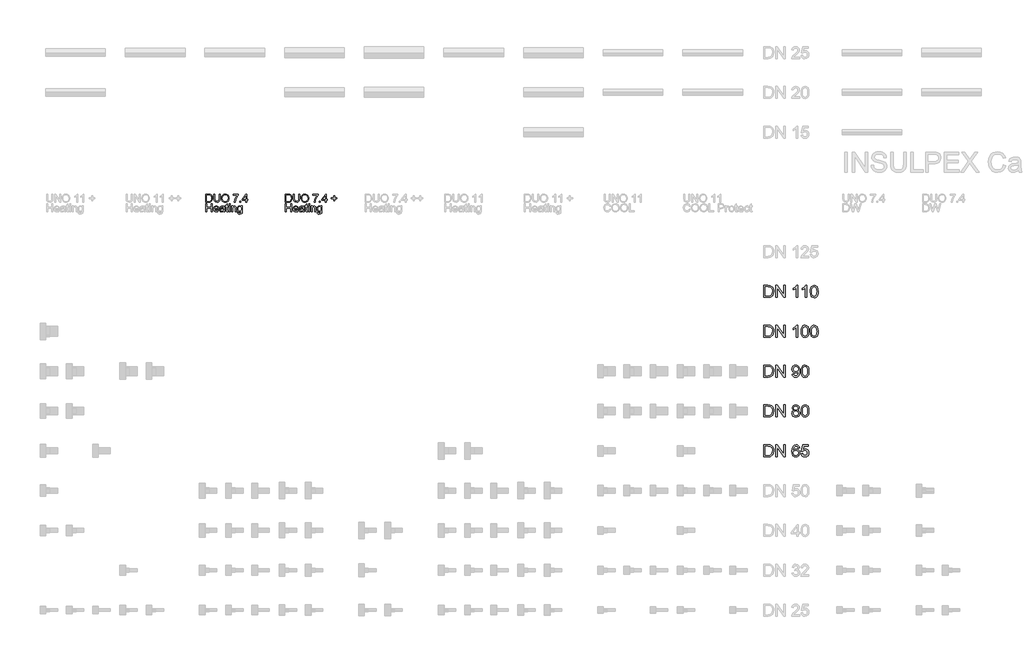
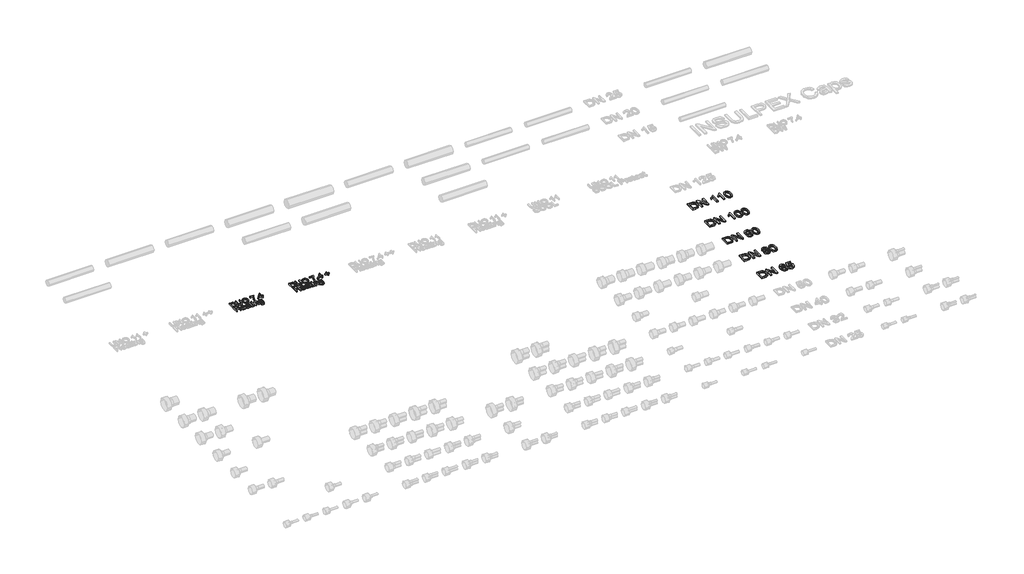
# One storey, part 16 of 44: 7 proxies.
"""IFC4 building model written with IfcOpenShell, lengths in millimetres."""

import ifcopenshell
import ifcopenshell.guid

model = None  # the IFC model being written
_history = None  # IfcOwnerHistory: only IFC2X3 demands one
_inside = {}  # id of a spatial element -> (the spatial element, [elements in it])
_under = {}  # id of a project, library or spatial element -> (it, [spatial elements below it])
_declared = {}  # id of a project -> (the project, [libraries it declares])
_typed = {}  # id of a type object -> (the type object, [elements of that type])
_made_of = {}  # id of a material, layer set ... -> (it, [elements and type objects made of it])


def new_model(schema):
    """Start an empty IFC model of exactly this schema.

    Asked for "IFC4X3", IfcOpenShell would pick the latest addendum, in which some entities
    have other attributes; the version numbers below select the first issue.
    IFC2X3 requires an IfcOwnerHistory on every rooted entity: one is made here for all.
    """
    global model, _history
    if schema == "IFC4X3":
        model = ifcopenshell.file(schema_version=(4, 3, 0, 0))
    else:
        model = ifcopenshell.file(schema=schema)
    _inside.clear()
    _under.clear()
    _declared.clear()
    _typed.clear()
    _made_of.clear()
    _history = None
    if model.schema == "IFC2X3":
        org = make("IfcOrganization", Name="unknown")
        user = make(
            "IfcPersonAndOrganization",
            ThePerson=make("IfcPerson", FamilyName="unknown"),
            TheOrganization=org,
        )
        app = make(
            "IfcApplication",
            ApplicationDeveloper=org,
            Version="unknown",
            ApplicationFullName="unknown",
            ApplicationIdentifier="unknown",
        )
        _history = make(
            "IfcOwnerHistory",
            OwningUser=user,
            OwningApplication=app,
            ChangeAction="ADDED",
            CreationDate=0,
        )
    return model


def make(cls, **values):
    """One entity of the class cls with the attributes given. An attribute that is None is left unset."""
    return model.create_entity(
        cls, **{name: value for name, value in values.items() if value is not None}
    )


def rooted(cls, **values):
    """An entity with a GlobalId (a new one), such as an element, a storey or a relation."""
    return make(cls, GlobalId=ifcopenshell.guid.new(), OwnerHistory=_history, **values)


def si_unit(unit_type, name, prefix=None):
    """IfcSIUnit, for example si_unit("LENGTHUNIT", "METRE", prefix="MILLI")."""
    return make("IfcSIUnit", UnitType=unit_type, Prefix=prefix, Name=name)


def assignment(units):
    """IfcUnitAssignment: the units of a project."""
    return None if units is None else make("IfcUnitAssignment", Units=units)


def point(xyz):
    """IfcCartesianPoint."""
    return None if xyz is None else make("IfcCartesianPoint", Coordinates=xyz)


def direction(xyz):
    """IfcDirection."""
    return None if xyz is None else make("IfcDirection", DirectionRatios=xyz)


def frame(location, z_axis=None, x_axis=None):
    """IfcAxis2Placement3D, a coordinate frame: its origin and axes. An axis left out is left unset."""
    return make(
        "IfcAxis2Placement3D",
        Location=point(location),
        Axis=direction(z_axis),
        RefDirection=direction(x_axis),
    )


def origin():
    """The frame at (0, 0, 0) with its axes left unset."""
    return frame((0.0, 0.0, 0.0))


def origin_with_axes():
    """The frame at (0, 0, 0) with the z axis (0, 0, 1) and the x axis (1, 0, 0) written out."""
    return frame((0.0, 0.0, 0.0), z_axis=(0.0, 0.0, 1.0), x_axis=(1.0, 0.0, 0.0))


def place(relative_to, where):
    """IfcLocalPlacement: puts the frame where relative to a parent placement (None: the world)."""
    return make(
        "IfcLocalPlacement", PlacementRelTo=relative_to, RelativePlacement=where
    )


def context(
    kind, dimensions, precision=None, world=None, true_north=None, identifier=None
):
    """IfcGeometricRepresentationContext, for example the 3D "Model" context."""
    return make(
        "IfcGeometricRepresentationContext",
        ContextIdentifier=identifier,
        ContextType=kind,
        CoordinateSpaceDimension=dimensions,
        Precision=precision,
        WorldCoordinateSystem=world,
        TrueNorth=true_north,
    )


def project(units=None, contexts=None):
    """IfcProject with its units and contexts."""
    return rooted(
        "IfcProject",
        Name="project",
        RepresentationContexts=contexts,
        UnitsInContext=assignment(units),
    )


def spatial(cls, under=None, at=None, **own):
    """A site, building, storey or space (cls), placed at a placement, below another one or the project."""
    s = rooted(cls, ObjectPlacement=at, **own)
    if under is not None:
        _under.setdefault(under.id(), (under, []))[1].append(s)
    return s


def polyline(points):
    """IfcPolyline through the points."""
    return make("IfcPolyline", Points=[point(p) for p in points])


def outline(outer, holes=None, kind="AREA"):
    """IfcArbitraryClosedProfileDef: a profile drawn as a closed curve; with holes, ...WithVoids."""
    if holes is None:
        return make("IfcArbitraryClosedProfileDef", ProfileType=kind, OuterCurve=outer)
    return make(
        "IfcArbitraryProfileDefWithVoids",
        ProfileType=kind,
        OuterCurve=outer,
        InnerCurves=holes,
    )


def extrude(swept, where, along, depth):
    """IfcExtrudedAreaSolid: the profile swept, set in the frame where, extruded along a direction by depth."""
    return make(
        "IfcExtrudedAreaSolid",
        SweptArea=swept,
        Position=where,
        ExtrudedDirection=direction(along),
        Depth=depth,
    )


def shape(context_of_items, identifier, shape_type, items):
    """IfcShapeRepresentation: the items that make up one representation, for example the "Body"."""
    return make(
        "IfcShapeRepresentation",
        ContextOfItems=context_of_items,
        RepresentationIdentifier=identifier,
        RepresentationType=shape_type,
        Items=items,
    )


def made_of(thing, what):
    """Note that an element or type object is made of a material, layer set ...; save() writes the relation."""
    if what is not None:
        _made_of.setdefault(what.id(), (what, []))[1].append(thing)
    return thing


def element(
    cls,
    number,
    at=None,
    inside=None,
    cuts=None,
    type_object=None,
    material=None,
    context=None,
    identifier="Body",
    shape_type=None,
    held_by="IfcProductDefinitionShape",
    body=None,
    shapes=None,
    **own,
):
    """One element of the class cls, such as IfcWall. Its Tag is "e" and its number.

    at: its placement. inside: the storey or other place that contains it. cuts: it is an
    opening in that element (IfcRelVoidsElement). A single representation is given by context,
    identifier, shape_type and body (its items); several are given by shapes. held_by: the class
    of the entity that holds the representations. save() writes the other relations.
    """
    e = rooted(cls, Tag="e%d" % number, ObjectPlacement=at, **own)
    if body is not None:
        shapes = [shape(context, identifier, shape_type, body)]
    if shapes is not None:
        e.Representation = make(held_by, Representations=shapes)
    if inside is not None:
        _inside.setdefault(inside.id(), (inside, []))[1].append(e)
    if cuts is not None:
        rooted(
            "IfcRelVoidsElement", RelatingBuildingElement=cuts, RelatedOpeningElement=e
        )
    if type_object is not None:
        _typed.setdefault(type_object.id(), (type_object, []))[1].append(e)
    return made_of(e, material)


def aggregate(whole, parts):
    """IfcRelAggregates: a whole, such as a stair, and the parts it consists of."""
    return rooted("IfcRelAggregates", RelatingObject=whole, RelatedObjects=parts)


def save(model, path):
    """Write the relations noted so far, then the file.

    IfcRelAggregates (storeys below a building ...), IfcRelContainedInSpatialStructure (elements
    in a storey), IfcRelDefinesByType, IfcRelAssociatesMaterial and IfcRelDeclares: one each for
    every whole, place, type object, material and project.
    """
    for whole, parts in _under.values():
        aggregate(whole, parts)
    for where, things in _inside.values():
        rooted(
            "IfcRelContainedInSpatialStructure",
            RelatedElements=things,
            RelatingStructure=where,
        )
    for kind, things in _typed.values():
        rooted("IfcRelDefinesByType", RelatedObjects=things, RelatingType=kind)
    for what, things in _made_of.values():
        rooted("IfcRelAssociatesMaterial", RelatedObjects=things, RelatingMaterial=what)
    for by, libraries in _declared.values():
        rooted("IfcRelDeclares", RelatingContext=by, RelatedDefinitions=libraries)
    model.write(path)


model = new_model("IFC4")

# Units and contexts
model_context = context("Model", 3, world=origin())
ifc_project = project(units=[si_unit("LENGTHUNIT", "METRE", prefix="MILLI")], contexts=[model_context])

# Site, building, storey
site = spatial("IfcSite", under=ifc_project)
building = spatial("IfcBuilding", under=site)
storey = spatial("IfcBuildingStorey", under=building, Name="REHAU Starting view", Elevation=0.0)

# Proxies
placement = place(None, origin())
element("IfcBuildingElementProxy", 1, Name="100", ObjectType="100", at=placement, inside=storey, context=model_context, shape_type="SweptSolid", body=[
    extrude(outline(polyline([(8010.9874089, 13121.9748178), (8010.9874089, 13222.431128), (8045.6418929, 13222.431128), (8063.5700088, 13220.9841255), (8078.3343395, 13213.7981638), (8090.2291907, 13196.6303374), (8094.1777908, 13172.7425332), (8091.5045149, 13152.4722352), (8084.6373844, 13137.8427946), (8075.4648599, 13128.7315838), (8063.4596442, 13123.6916005), (8047.3096246, 13121.9748178), (8010.9874089, 13121.9748178)]), holes=[polyline([(8023.5444477, 13134.5318566), (8045.7645202, 13134.5318566), (8061.9268025, 13136.3467411), (8071.2464797, 13141.4725636), (8078.8861625, 13153.9437632), (8081.620752, 13172.9387369), (8080.2810484, 13186.6239471), (8076.2619376, 13196.7284393), (8063.2266522, 13207.863001), (8045.4211637, 13209.8740892), (8023.5444477, 13209.8740892), (8023.5444477, 13134.5318566)])]), origin_with_axes(), (0.0, 0.0, 1.0), 20.0),
    extrude(outline(polyline([(8177.3681726, 13222.431128), (8189.9252114, 13222.431128), (8189.9252114, 13164.477451), (8186.5161716, 13140.4547567), (8174.2289129, 13125.9847316), (8163.9650053, 13121.8000739), (8150.9297199, 13120.405188), (8127.9861461, 13125.2612303), (8120.3464634, 13131.2055902), (8115.2574291, 13139.3265853), (8111.4437191, 13164.477451), (8111.4437191, 13222.431128), (8124.0007578, 13222.431128), (8124.0007578, 13164.9189094), (8126.4778299, 13145.7767829), (8134.9881668, 13136.2976902), (8149.7524975, 13132.9622268), (8162.5241341, 13134.6115644), (8171.0160768, 13139.5595772), (8175.7801487, 13149.1980855), (8177.3681726, 13164.9189094), (8177.3681726, 13222.431128)])), origin_with_axes(), (0.0, 0.0, 1.0), 20.0),
    extrude(outline(polyline([(8207.1911397, 13170.8785977), (8210.5388658, 13193.0925389), (8220.5820443, 13209.8986147), (8235.9165921, 13220.4752221), (8255.1384264, 13224.0007578), (8268.3147332, 13222.3452889), (8280.1298766, 13217.3788819), (8289.9400631, 13209.4510249), (8297.1014993, 13198.9112058), (8301.479295, 13186.2683279), (8302.9385603, 13172.0312947), (8301.402653, 13157.6041891), (8296.794931, 13144.7835015), (8289.369846, 13134.2252883), (8279.3818499, 13126.5856055), (8267.667874, 13121.9502924), (8255.06485, 13120.405188), (8241.6862081, 13122.1127736), (8229.8036197, 13127.2355304), (8220.0179586, 13135.3105402), (8212.9300988, 13145.8748848), (8207.1911397, 13170.8785977)]), holes=[polyline([(8219.7481785, 13170.7559704), (8222.2589731, 13155.0412778), (8229.7913569, 13143.0667189), (8241.1129253, 13135.4883498), (8254.9912736, 13132.9622268), (8269.071957, 13135.5128753), (8280.4119195, 13143.1648208), (8287.889121, 13155.5072617), (8290.3815215, 13172.1293965), (8286.1140904, 13192.8534156), (8273.6428907, 13206.575414), (8255.2120028, 13211.4437191), (8241.7046022, 13209.0984714), (8230.2205526, 13202.0627282), (8222.366272, 13189.5455433), (8219.7481785, 13170.7559704)])]), origin_with_axes(), (0.0, 0.0, 1.0), 20.0),
    extrude(outline(polyline([(8354.7363452, 13208.3044594), (8354.7363452, 13220.8614981), (8420.6607988, 13220.8614981), (8420.6607988, 13210.7079551), (8401.9601307, 13183.6931539), (8387.6495211, 13149.2716619), (8382.9896824, 13121.9748178), (8370.4326437, 13121.9748178), (8375.4235761, 13150.3017315), (8389.121049, 13182.3197278), (8408.10376, 13208.3044594), (8354.7363452, 13208.3044594)])), origin_with_axes(), (0.0, 0.0, 1.0), 20.0),
    extrude(outline(polyline([(8437.9267271, 13121.9748178), (8437.9267271, 13134.5318566), (8450.4837658, 13134.5318566), (8450.4837658, 13121.9748178), (8437.9267271, 13121.9748178)])), origin_with_axes(), (0.0, 0.0, 1.0), 20.0),
    extrude(outline(polyline([(8511.6993298, 13121.9748178), (8511.6993298, 13145.5192655), (8466.1800643, 13145.5192655), (8466.1800643, 13158.0763043), (8514.8385895, 13220.8614981), (8524.2563686, 13220.8614981), (8524.2563686, 13158.0763043), (8536.8134074, 13158.0763043), (8536.8134074, 13145.5192655), (8524.2563686, 13145.5192655), (8524.2563686, 13121.9748178), (8511.6993298, 13121.9748178)]), holes=[polyline([(8511.6993298, 13158.0763043), (8511.6993298, 13196.8755921), (8481.6311081, 13158.0763043), (8511.6993298, 13158.0763043)])]), origin_with_axes(), (0.0, 0.0, 1.0), 20.0),
    extrude(outline(polyline([(8010.9874089, 13000.0), (8010.9874089, 13100.4563101), (8023.5444477, 13100.4563101), (8023.5444477, 13059.6459342), (8076.9118625, 13059.6459342), (8076.9118625, 13100.4563101), (8089.4689012, 13100.4563101), (8089.4689012, 13000.0), (8076.9118625, 13000.0), (8076.9118625, 13047.0888954), (8023.5444477, 13047.0888954), (8023.5444477, 13000.0), (8010.9874089, 13000.0)])), origin_with_axes(), (0.0, 0.0, 1.0), 20.0),
    extrude(outline(polyline([(8161.5247213, 13021.9748178), (8173.8365055, 13020.405188), (8169.4004617, 13011.1284304), (8162.321799, 13004.1938547), (8152.7599328, 12999.8712413), (8140.8742787, 12998.4303702), (8126.1406048, 13000.9166393), (8114.803708, 13008.3754468), (8107.5748268, 13020.3224146), (8105.1651997, 13036.2731647), (8107.5993522, 13052.7604095), (8114.9018098, 13065.0905877), (8126.0854225, 13072.7793214), (8140.1630402, 13075.3422326), (8153.8022651, 13072.7854527), (8164.7007692, 13065.1151131), (8171.846877, 13052.8094604), (8174.2289129, 13036.3467411), (8174.1553365, 13032.9622268), (8117.7222385, 13032.9622268), (8119.8958079, 13023.5628418), (8124.9449883, 13016.6527916), (8132.2321175, 13012.4037546), (8141.1195333, 13010.9874089), (8153.4313175, 13013.6116338), (8161.5247213, 13021.9748178)]), holes=[polyline([(8117.7222385, 13045.5192655), (8161.6718741, 13045.5192655), (8156.6441535, 13056.8990819), (8149.3233018, 13061.3136659), (8140.1139892, 13062.7851938), (8124.6506827, 13058.088567), (8119.7854433, 13052.5979283), (8117.7222385, 13045.5192655)])]), origin_with_axes(), (0.0, 0.0, 1.0), 20.0),
    extrude(outline(polyline([(8233.8748471, 13009.4177791), (8221.697953, 13000.9074423), (8208.2457347, 12998.4303702), (8197.7519008, 12999.9202922), (8190.0110505, 13004.3900585), (8185.2377816, 13011.1774813), (8183.646692, 13019.6203731), (8186.0501877, 13029.5531869), (8192.3654953, 13036.7636741), (8201.157875, 13040.8839524), (8212.0226566, 13042.7724133), (8233.8012707, 13047.0888954), (8233.8748471, 13049.8847985), (8230.4167563, 13059.1554248), (8216.5353424, 13062.7851938), (8203.8311508, 13060.3694354), (8197.7733606, 13051.7977849), (8185.2163218, 13053.3674148), (8190.6487126, 13065.6301479), (8201.5870706, 13072.8161096), (8218.1540231, 13075.3422326), (8233.372075, 13073.1104152), (8241.968251, 13067.5063461), (8245.8187492, 13058.9837466), (8246.4318858, 13047.9963376), (8246.4318858, 13032.3736156), (8247.069548, 13010.5582133), (8249.5711455, 13000.0), (8237.0141068, 13000.0), (8233.8748471, 13009.4177791)]), holes=[polyline([(8233.8748471, 13034.5318566), (8213.6168119, 13030.6813584), (8202.8133439, 13028.6457447), (8197.9205134, 13025.3348067), (8196.2037308, 13020.5032899), (8199.9438644, 13013.7097357), (8210.9190106, 13010.9874089), (8223.6232021, 13013.9917785), (8231.8147079, 13021.2635793), (8233.8012707, 13030.975664), (8233.8748471, 13034.5318566)])]), origin_with_axes(), (0.0, 0.0, 1.0), 20.0),
    extrude(outline(polyline([(8290.3815215, 13010.4723741), (8291.9511514, 12999.632118), (8282.5578978, 12998.4303702), (8272.0364727, 13000.5150348), (8266.7880229, 13005.9842138), (8265.267444, 13020.2335097), (8265.267444, 13061.215564), (8255.8496649, 13061.215564), (8255.8496649, 13073.7726028), (8265.267444, 13073.7726028), (8265.267444, 13091.7007187), (8277.8244828, 13099.082884), (8277.8244828, 13073.7726028), (8290.3815215, 13073.7726028), (8290.3815215, 13061.215564), (8277.8244828, 13061.215564), (8277.8244828, 13020.6013917), (8278.4866703, 13014.1266686), (8280.6326487, 13011.8335375), (8284.9123425, 13010.9874089), (8290.3815215, 13010.4723741)])), origin_with_axes(), (0.0, 0.0, 1.0), 20.0),
    extrude(outline(polyline([(8302.9385603, 13087.8992714), (8302.9385603, 13100.4563101), (8315.4955991, 13100.4563101), (8315.4955991, 13087.8992714), (8302.9385603, 13087.8992714)])), origin_with_axes(), (0.0, 0.0, 1.0), 20.0),
    extrude(outline(polyline([(8302.9385603, 13000.0), (8302.9385603, 13073.7726028), (8315.4955991, 13073.7726028), (8315.4955991, 13000.0), (8302.9385603, 13000.0)])), origin_with_axes(), (0.0, 0.0, 1.0), 20.0),
    extrude(outline(polyline([(8334.3311572, 13000.0), (8334.3311572, 13073.7726028), (8346.888196, 13073.7726028), (8346.888196, 13063.4719069), (8356.4899161, 13072.3746512), (8369.5987778, 13075.3422326), (8381.4568408, 13072.9509996), (8389.5502447, 13066.6724803), (8393.3149038, 13057.4386422), (8393.9770914, 13045.2985363), (8393.9770914, 13000.0), (8381.4200526, 13000.0), (8381.4200526, 13043.6062792), (8379.9730501, 13054.7163154), (8374.8594904, 13060.5901646), (8366.2387889, 13062.7851938), (8352.6148924, 13057.8555751), (8348.3198701, 13050.712533), (8346.888196, 13039.1426443), (8346.888196, 13000.0), (8334.3311572, 13000.0)])), origin_with_axes(), (0.0, 0.0, 1.0), 20.0),
    extrude(outline(polyline([(8408.10376, 12993.7214806), (8420.6607988, 12992.1518508), (8424.7320262, 12985.5299749), (8436.9211829, 12982.7340717), (8449.7725273, 12985.8978569), (8455.9038939, 12994.7760757), (8456.7622852, 13009.4177791), (8447.9208546, 13002.3544448), (8437.1419121, 13000.0), (8424.1955316, 13002.7407209), (8414.5416949, 13010.9628835), (8408.5360213, 13023.0171502), (8406.5341301, 13037.2541834), (8410.127111, 13056.7151409), (8420.5259087, 13070.4861903), (8436.5287755, 13075.3422326), (8447.7307822, 13072.5953804), (8456.7622852, 13064.3548237), (8456.7622852, 13073.7726028), (8469.319324, 13073.7726028), (8469.319324, 13010.0799667), (8465.8857587, 12985.6893904), (8455.0087144, 12974.3463622), (8436.6759283, 12970.1770329), (8424.9926092, 12971.6454952), (8415.7924937, 12976.0508821), (8409.8910533, 12983.4054563), (8408.10376, 12993.7214806)]), holes=[polyline([(8419.0911689, 13038.1125747), (8420.4308725, 13026.5948026), (8424.4499833, 13018.6761426), (8430.4924451, 13014.0868147), (8437.9022016, 13012.5570388), (8445.2567758, 13014.0776177), (8451.3298944, 13018.6393544), (8455.4041875, 13026.4568468), (8456.7622852, 13037.7446927), (8455.3643336, 13048.6309341), (8451.1704789, 13056.4698863), (8445.0084555, 13061.2063669), (8437.7059979, 13062.7851938), (8430.5353646, 13061.2308924), (8424.5235597, 13056.5679881), (8420.4492666, 13048.8455319), (8419.0911689, 13038.1125747)])]), origin_with_axes(), (0.0, 0.0, 1.0), 20.0),
])
element("IfcBuildingElementProxy", 2, Name="100", ObjectType="100", at=placement, inside=storey, context=model_context, shape_type="SweptSolid", body=[
    extrude(outline(polyline([(9010.9874089, 13121.9748178), (9010.9874089, 13222.431128), (9045.6418929, 13222.431128), (9063.5700088, 13220.9841255), (9078.3343395, 13213.7981638), (9090.2291907, 13196.6303374), (9094.1777908, 13172.7425332), (9091.5045149, 13152.4722352), (9084.6373844, 13137.8427946), (9075.4648599, 13128.7315838), (9063.4596442, 13123.6916005), (9047.3096246, 13121.9748178), (9010.9874089, 13121.9748178)]), holes=[polyline([(9023.5444477, 13134.5318566), (9045.7645202, 13134.5318566), (9061.9268025, 13136.3467411), (9071.2464797, 13141.4725636), (9078.8861625, 13153.9437632), (9081.620752, 13172.9387369), (9080.2810484, 13186.6239471), (9076.2619376, 13196.7284393), (9063.2266522, 13207.863001), (9045.4211637, 13209.8740892), (9023.5444477, 13209.8740892), (9023.5444477, 13134.5318566)])]), origin_with_axes(), (0.0, 0.0, 1.0), 20.0),
    extrude(outline(polyline([(9177.3681726, 13222.431128), (9189.9252114, 13222.431128), (9189.9252114, 13164.477451), (9186.5161716, 13140.4547567), (9174.2289129, 13125.9847316), (9163.9650053, 13121.8000739), (9150.9297199, 13120.405188), (9127.9861461, 13125.2612303), (9120.3464634, 13131.2055902), (9115.2574291, 13139.3265853), (9111.4437191, 13164.477451), (9111.4437191, 13222.431128), (9124.0007578, 13222.431128), (9124.0007578, 13164.9189094), (9126.4778299, 13145.7767829), (9134.9881668, 13136.2976902), (9149.7524975, 13132.9622268), (9162.5241341, 13134.6115644), (9171.0160768, 13139.5595772), (9175.7801487, 13149.1980855), (9177.3681726, 13164.9189094), (9177.3681726, 13222.431128)])), origin_with_axes(), (0.0, 0.0, 1.0), 20.0),
    extrude(outline(polyline([(9207.1911397, 13170.8785977), (9210.5388658, 13193.0925389), (9220.5820443, 13209.8986147), (9235.9165921, 13220.4752221), (9255.1384264, 13224.0007578), (9268.3147332, 13222.3452889), (9280.1298766, 13217.3788819), (9289.9400631, 13209.4510249), (9297.1014993, 13198.9112058), (9301.479295, 13186.2683279), (9302.9385603, 13172.0312947), (9301.402653, 13157.6041891), (9296.794931, 13144.7835015), (9289.369846, 13134.2252883), (9279.3818499, 13126.5856055), (9267.667874, 13121.9502924), (9255.06485, 13120.405188), (9241.6862081, 13122.1127736), (9229.8036197, 13127.2355304), (9220.0179586, 13135.3105402), (9212.9300988, 13145.8748848), (9207.1911397, 13170.8785977)]), holes=[polyline([(9219.7481785, 13170.7559704), (9222.2589731, 13155.0412778), (9229.7913569, 13143.0667189), (9241.1129253, 13135.4883498), (9254.9912736, 13132.9622268), (9269.071957, 13135.5128753), (9280.4119195, 13143.1648208), (9287.889121, 13155.5072617), (9290.3815215, 13172.1293965), (9286.1140904, 13192.8534156), (9273.6428907, 13206.575414), (9255.2120028, 13211.4437191), (9241.7046022, 13209.0984714), (9230.2205526, 13202.0627282), (9222.366272, 13189.5455433), (9219.7481785, 13170.7559704)])]), origin_with_axes(), (0.0, 0.0, 1.0), 20.0),
    extrude(outline(polyline([(9354.7363452, 13208.3044594), (9354.7363452, 13220.8614981), (9420.6607988, 13220.8614981), (9420.6607988, 13210.7079551), (9401.9601307, 13183.6931539), (9387.6495211, 13149.2716619), (9382.9896824, 13121.9748178), (9370.4326437, 13121.9748178), (9375.4235761, 13150.3017315), (9389.121049, 13182.3197278), (9408.10376, 13208.3044594), (9354.7363452, 13208.3044594)])), origin_with_axes(), (0.0, 0.0, 1.0), 20.0),
    extrude(outline(polyline([(9437.9267271, 13121.9748178), (9437.9267271, 13134.5318566), (9450.4837658, 13134.5318566), (9450.4837658, 13121.9748178), (9437.9267271, 13121.9748178)])), origin_with_axes(), (0.0, 0.0, 1.0), 20.0),
    extrude(outline(polyline([(9511.6993298, 13121.9748178), (9511.6993298, 13145.5192655), (9466.1800643, 13145.5192655), (9466.1800643, 13158.0763043), (9514.8385895, 13220.8614981), (9524.2563686, 13220.8614981), (9524.2563686, 13158.0763043), (9536.8134074, 13158.0763043), (9536.8134074, 13145.5192655), (9524.2563686, 13145.5192655), (9524.2563686, 13121.9748178), (9511.6993298, 13121.9748178)]), holes=[polyline([(9511.6993298, 13158.0763043), (9511.6993298, 13196.8755921), (9481.6311081, 13158.0763043), (9511.6993298, 13158.0763043)])]), origin_with_axes(), (0.0, 0.0, 1.0), 20.0),
    extrude(outline(polyline([(9615.2948997, 13137.6711163), (9615.2948997, 13164.3548237), (9588.6111923, 13164.3548237), (9588.6111923, 13176.9118625), (9615.2948997, 13176.9118625), (9615.2948997, 13203.5955698), (9627.8519384, 13203.5955698), (9627.8519384, 13176.9118625), (9654.5356458, 13176.9118625), (9654.5356458, 13164.3548237), (9627.8519384, 13164.3548237), (9627.8519384, 13137.6711163), (9615.2948997, 13137.6711163)])), origin_with_axes(), (0.0, 0.0, 1.0), 20.0),
    extrude(outline(polyline([(9010.9874089, 13000.0), (9010.9874089, 13100.4563101), (9023.5444477, 13100.4563101), (9023.5444477, 13059.6459342), (9076.9118625, 13059.6459342), (9076.9118625, 13100.4563101), (9089.4689012, 13100.4563101), (9089.4689012, 13000.0), (9076.9118625, 13000.0), (9076.9118625, 13047.0888954), (9023.5444477, 13047.0888954), (9023.5444477, 13000.0), (9010.9874089, 13000.0)])), origin_with_axes(), (0.0, 0.0, 1.0), 20.0),
    extrude(outline(polyline([(9161.5247213, 13021.9748178), (9173.8365055, 13020.405188), (9169.4004617, 13011.1284304), (9162.321799, 13004.1938547), (9152.7599328, 12999.8712413), (9140.8742787, 12998.4303702), (9126.1406048, 13000.9166393), (9114.803708, 13008.3754468), (9107.5748268, 13020.3224146), (9105.1651997, 13036.2731647), (9107.5993522, 13052.7604095), (9114.9018098, 13065.0905877), (9126.0854225, 13072.7793214), (9140.1630402, 13075.3422326), (9153.8022651, 13072.7854527), (9164.7007692, 13065.1151131), (9171.846877, 13052.8094604), (9174.2289129, 13036.3467411), (9174.1553365, 13032.9622268), (9117.7222385, 13032.9622268), (9119.8958079, 13023.5628418), (9124.9449883, 13016.6527916), (9132.2321175, 13012.4037546), (9141.1195333, 13010.9874089), (9153.4313175, 13013.6116338), (9161.5247213, 13021.9748178)]), holes=[polyline([(9117.7222385, 13045.5192655), (9161.6718741, 13045.5192655), (9156.6441535, 13056.8990819), (9149.3233018, 13061.3136659), (9140.1139892, 13062.7851938), (9124.6506827, 13058.088567), (9119.7854433, 13052.5979283), (9117.7222385, 13045.5192655)])]), origin_with_axes(), (0.0, 0.0, 1.0), 20.0),
    extrude(outline(polyline([(9233.8748471, 13009.4177791), (9221.697953, 13000.9074423), (9208.2457347, 12998.4303702), (9197.7519008, 12999.9202922), (9190.0110505, 13004.3900585), (9185.2377816, 13011.1774813), (9183.646692, 13019.6203731), (9186.0501877, 13029.5531869), (9192.3654953, 13036.7636741), (9201.157875, 13040.8839524), (9212.0226566, 13042.7724133), (9233.8012707, 13047.0888954), (9233.8748471, 13049.8847985), (9230.4167563, 13059.1554248), (9216.5353424, 13062.7851938), (9203.8311508, 13060.3694354), (9197.7733606, 13051.7977849), (9185.2163218, 13053.3674148), (9190.6487126, 13065.6301479), (9201.5870706, 13072.8161096), (9218.1540231, 13075.3422326), (9233.372075, 13073.1104152), (9241.968251, 13067.5063461), (9245.8187492, 13058.9837466), (9246.4318858, 13047.9963376), (9246.4318858, 13032.3736156), (9247.069548, 13010.5582133), (9249.5711455, 13000.0), (9237.0141068, 13000.0), (9233.8748471, 13009.4177791)]), holes=[polyline([(9233.8748471, 13034.5318566), (9213.6168119, 13030.6813584), (9202.8133439, 13028.6457447), (9197.9205134, 13025.3348067), (9196.2037308, 13020.5032899), (9199.9438644, 13013.7097357), (9210.9190106, 13010.9874089), (9223.6232021, 13013.9917785), (9231.8147079, 13021.2635793), (9233.8012707, 13030.975664), (9233.8748471, 13034.5318566)])]), origin_with_axes(), (0.0, 0.0, 1.0), 20.0),
    extrude(outline(polyline([(9290.3815215, 13010.4723741), (9291.9511514, 12999.632118), (9282.5578978, 12998.4303702), (9272.0364727, 13000.5150348), (9266.7880229, 13005.9842138), (9265.267444, 13020.2335097), (9265.267444, 13061.215564), (9255.8496649, 13061.215564), (9255.8496649, 13073.7726028), (9265.267444, 13073.7726028), (9265.267444, 13091.7007187), (9277.8244828, 13099.082884), (9277.8244828, 13073.7726028), (9290.3815215, 13073.7726028), (9290.3815215, 13061.215564), (9277.8244828, 13061.215564), (9277.8244828, 13020.6013917), (9278.4866703, 13014.1266686), (9280.6326487, 13011.8335375), (9284.9123425, 13010.9874089), (9290.3815215, 13010.4723741)])), origin_with_axes(), (0.0, 0.0, 1.0), 20.0),
    extrude(outline(polyline([(9302.9385603, 13087.8992714), (9302.9385603, 13100.4563101), (9315.4955991, 13100.4563101), (9315.4955991, 13087.8992714), (9302.9385603, 13087.8992714)])), origin_with_axes(), (0.0, 0.0, 1.0), 20.0),
    extrude(outline(polyline([(9302.9385603, 13000.0), (9302.9385603, 13073.7726028), (9315.4955991, 13073.7726028), (9315.4955991, 13000.0), (9302.9385603, 13000.0)])), origin_with_axes(), (0.0, 0.0, 1.0), 20.0),
    extrude(outline(polyline([(9334.3311572, 13000.0), (9334.3311572, 13073.7726028), (9346.888196, 13073.7726028), (9346.888196, 13063.4719069), (9356.4899161, 13072.3746512), (9369.5987778, 13075.3422326), (9381.4568408, 13072.9509996), (9389.5502447, 13066.6724803), (9393.3149038, 13057.4386422), (9393.9770914, 13045.2985363), (9393.9770914, 13000.0), (9381.4200526, 13000.0), (9381.4200526, 13043.6062792), (9379.9730501, 13054.7163154), (9374.8594904, 13060.5901646), (9366.2387889, 13062.7851938), (9352.6148924, 13057.8555751), (9348.3198701, 13050.712533), (9346.888196, 13039.1426443), (9346.888196, 13000.0), (9334.3311572, 13000.0)])), origin_with_axes(), (0.0, 0.0, 1.0), 20.0),
    extrude(outline(polyline([(9408.10376, 12993.7214806), (9420.6607988, 12992.1518508), (9424.7320262, 12985.5299749), (9436.9211829, 12982.7340717), (9449.7725273, 12985.8978569), (9455.9038939, 12994.7760757), (9456.7622852, 13009.4177791), (9447.9208546, 13002.3544448), (9437.1419121, 13000.0), (9424.1955316, 13002.7407209), (9414.5416949, 13010.9628835), (9408.5360213, 13023.0171502), (9406.5341301, 13037.2541834), (9410.127111, 13056.7151409), (9420.5259087, 13070.4861903), (9436.5287755, 13075.3422326), (9447.7307822, 13072.5953804), (9456.7622852, 13064.3548237), (9456.7622852, 13073.7726028), (9469.319324, 13073.7726028), (9469.319324, 13010.0799667), (9465.8857587, 12985.6893904), (9455.0087144, 12974.3463622), (9436.6759283, 12970.1770329), (9424.9926092, 12971.6454952), (9415.7924937, 12976.0508821), (9409.8910533, 12983.4054563), (9408.10376, 12993.7214806)]), holes=[polyline([(9419.0911689, 13038.1125747), (9420.4308725, 13026.5948026), (9424.4499833, 13018.6761426), (9430.4924451, 13014.0868147), (9437.9022016, 13012.5570388), (9445.2567758, 13014.0776177), (9451.3298944, 13018.6393544), (9455.4041875, 13026.4568468), (9456.7622852, 13037.7446927), (9455.3643336, 13048.6309341), (9451.1704789, 13056.4698863), (9445.0084555, 13061.2063669), (9437.7059979, 13062.7851938), (9430.5353646, 13061.2308924), (9424.5235597, 13056.5679881), (9420.4492666, 13048.8455319), (9419.0911689, 13038.1125747)])]), origin_with_axes(), (0.0, 0.0, 1.0), 20.0),
])
element("IfcBuildingElementProxy", 3, Name="150", ObjectType="150", at=placement, inside=storey, context=model_context, shape_type="SweptSolid", body=[
    extrude(outline(polyline([(15016.4811134, 9925.0), (15016.4811134, 10075.6844652), (15068.4628393, 10075.6844652), (15095.3550131, 10073.5139615), (15117.5015093, 10062.735019), (15127.9217668, 10051.2571007), (15135.343786, 10036.9832793), (15139.7859611, 10020.1894663), (15141.2666861, 10001.151573), (15137.2567724, 9970.7461261), (15126.9560765, 9948.8019651), (15113.1972899, 9935.135149), (15095.1894663, 9927.575174), (15070.9644369, 9925.0), (15016.4811134, 9925.0)]), holes=[polyline([(15035.3166715, 9943.8355582), (15068.6467803, 9943.8355582), (15092.8902038, 9946.5578849), (15106.8697196, 9954.2466186), (15118.3292437, 9972.9534181), (15122.431128, 10001.4458786), (15120.4215726, 10021.9736939), (15114.3929064, 10037.1304321), (15105.4855636, 10047.5414926), (15094.8399784, 10053.8322747), (15068.1317455, 10056.8489071), (15035.3166715, 10056.8489071), (15035.3166715, 9943.8355582)])]), origin_with_axes(), (0.0, 0.0, 1.0), 20.0),
    extrude(outline(polyline([(15167.1655786, 9925.0), (15167.1655786, 10075.6844652), (15187.3255119, 10075.6844652), (15266.0522589, 9956.3067578), (15266.0522589, 10075.6844652), (15284.8878171, 10075.6844652), (15284.8878171, 9925.0), (15264.7278837, 9925.0), (15186.0011368, 10044.4144956), (15186.0011368, 9925.0), (15167.1655786, 9925.0)])), origin_with_axes(), (0.0, 0.0, 1.0), 20.0),
    extrude(outline(polyline([(15466.1800643, 10035.6589041), (15447.3445061, 10033.3044594), (15440.2075954, 10049.0130206), (15431.6635361, 10054.8899354), (15421.3352491, 10056.8489071), (15404.3391009, 10052.2871703), (15391.4816252, 10035.1622635), (15387.5774775, 10021.1321639), (15386.1289421, 10001.5930314), (15402.7388142, 10016.6210109), (15423.3218118, 10021.5322355), (15440.7226302, 10018.1753123), (15455.3275454, 10008.1045427), (15465.2327682, 9992.7178783), (15468.5345091, 9973.4132706), (15466.9802076, 9959.9257969), (15462.3173033, 9947.4224076), (15454.9320723, 9936.8182091), (15445.2107906, 9929.0283078), (15433.5949166, 9924.2412434), (15420.5259087, 9922.6455552), (15399.1565633, 9926.8761982), (15382.1374225, 9939.568127), (15371.0043936, 9961.9721405), (15367.293384, 9995.3390375), (15371.4136623, 10032.8538039), (15383.7744974, 10058.504376), (15400.6510839, 10071.3894429), (15422.5124715, 10075.6844652), (15439.0395701, 10073.0265178), (15452.2741249, 10065.0526756), (15461.5447511, 10052.3883379), (15466.1800643, 10035.6589041)]), holes=[polyline([(15386.1289421, 9973.7075762), (15390.4883438, 9957.3920097), (15402.0766266, 9945.5462094), (15419.0543807, 9941.4811134), (15431.4841936, 9943.5872378), (15441.2560591, 9949.9056111), (15447.588228, 9959.8384249), (15449.6989509, 9972.7878712), (15447.6158191, 9985.2176841), (15441.3664237, 9994.695244), (15431.4290113, 10000.696319), (15418.2818285, 10002.6966774), (15405.8704097, 10000.696319), (15395.4915389, 9994.695244), (15388.4695913, 9985.4476103), (15386.1289421, 9973.7075762)])]), origin_with_axes(), (0.0, 0.0, 1.0), 20.0),
    extrude(outline(polyline([(15485.0156224, 9965.0255611), (15503.8511806, 9967.3800058), (15507.3092713, 9956.072233), (15513.3425361, 9947.9742306), (15521.9233836, 9943.1043927), (15533.0242228, 9941.4811134), (15546.525492, 9943.7389891), (15556.6422469, 9950.5126164), (15562.9606202, 9961.0202459), (15565.0667446, 9974.4801284), (15563.0939774, 9987.1536631), (15557.1756758, 9996.8473537), (15547.2658545, 10003.00018), (15533.3185284, 10005.0511222), (15516.7822327, 10001.7769724), (15506.2056254, 9993.2788983), (15487.3700672, 9995.6333431), (15503.8511806, 10073.3300205), (15576.8389684, 10073.3300205), (15576.8389684, 10054.4944623), (15519.0814952, 10054.4944623), (15511.0248795, 10012.9973732), (15524.4801635, 10021.1643535), (15538.5792409, 10023.8866803), (15556.1777959, 10020.511363), (15570.7873096, 10010.3854111), (15580.6235545, 9994.9527614), (15583.9023027, 9975.6573507), (15580.9500497, 9956.8217926), (15572.0932907, 9940.7085612), (15555.1339307, 9927.1613067), (15532.9506464, 9922.6455552), (15514.4507806, 9925.5472245), (15499.7125081, 9934.2522322), (15489.6095489, 9947.7489029), (15485.0156224, 9965.0255611)])), origin_with_axes(), (0.0, 0.0, 1.0), 20.0),
])
element("IfcBuildingElementProxy", 4, Name="150", ObjectType="150", at=placement, inside=storey, context=model_context, shape_type="SweptSolid", body=[
    extrude(outline(polyline([(15016.4811134, 10425.0), (15016.4811134, 10575.6844652), (15068.4628393, 10575.6844652), (15095.3550131, 10573.5139615), (15117.5015093, 10562.735019), (15127.9217668, 10551.2571007), (15135.343786, 10536.9832793), (15139.7859611, 10520.1894663), (15141.2666861, 10501.151573), (15137.2567724, 10470.7461261), (15126.9560765, 10448.8019651), (15113.1972899, 10435.135149), (15095.1894663, 10427.575174), (15070.9644369, 10425.0), (15016.4811134, 10425.0)]), holes=[polyline([(15035.3166715, 10443.8355582), (15068.6467803, 10443.8355582), (15092.8902038, 10446.5578849), (15106.8697196, 10454.2466186), (15118.3292437, 10472.9534181), (15122.431128, 10501.4458786), (15120.4215726, 10521.9736939), (15114.3929064, 10537.1304321), (15105.4855636, 10547.5414926), (15094.8399784, 10553.8322747), (15068.1317455, 10556.8489071), (15035.3166715, 10556.8489071), (15035.3166715, 10443.8355582)])]), origin_with_axes(), (0.0, 0.0, 1.0), 20.0),
    extrude(outline(polyline([(15167.1655786, 10425.0), (15167.1655786, 10575.6844652), (15187.3255119, 10575.6844652), (15266.0522589, 10456.3067578), (15266.0522589, 10575.6844652), (15284.8878171, 10575.6844652), (15284.8878171, 10425.0), (15264.7278837, 10425.0), (15186.0011368, 10544.4144956), (15186.0011368, 10425.0), (15167.1655786, 10425.0)])), origin_with_axes(), (0.0, 0.0, 1.0), 20.0),
    extrude(outline(polyline([(15397.0918256, 10507.9941781), (15379.9301305, 10519.6928256), (15374.3567183, 10537.9029843), (15377.3917448, 10552.6274612), (15386.4968241, 10564.7951582), (15400.6510839, 10572.9621385), (15418.8336515, 10575.6844652), (15437.1265837, 10572.8977591), (15451.4647845, 10564.5376408), (15460.7354108, 10552.1768057), (15463.8256195, 10537.3879495), (15458.3257837, 10519.6376433), (15441.6423352, 10507.9941781), (15453.2352166, 10502.0206942), (15461.6735098, 10493.223716), (15466.8192593, 10482.0263078), (15468.5345091, 10468.8515338), (15465.1316006, 10450.8437102), (15454.9228752, 10435.9628835), (15439.1591317, 10425.9748873), (15419.0911689, 10422.6455552), (15399.0232061, 10425.9886829), (15383.2594626, 10436.0180658), (15373.0507372, 10451.0414467), (15369.6478288, 10469.3665686), (15371.4320564, 10483.0517788), (15376.7847395, 10494.3089679), (15385.4299663, 10502.7518597), (15397.0918256, 10507.9941781)]), holes=[polyline([(15393.1922764, 10537.3511613), (15394.861541, 10529.1289987), (15399.8693347, 10522.5623051), (15408.0685046, 10518.2580858), (15419.3118981, 10516.823346), (15430.2931757, 10518.2488887), (15438.3681855, 10522.5255169), (15443.3345924, 10528.8714813), (15444.9900614, 10536.5050327), (15443.2794101, 10544.4282912), (15438.1474563, 10550.9811892), (15429.9620819, 10555.3819776), (15419.0911689, 10556.8489071), (15408.1512781, 10555.4141673), (15399.9796993, 10551.1099479), (15394.8891321, 10544.8007717), (15393.1922764, 10537.3511613)]), polyline([(15388.4833869, 10470.0287562), (15391.628778, 10455.8469053), (15402.7572083, 10445.2335097), (15419.2383217, 10441.4811134), (15432.0590092, 10443.4538806), (15441.6791234, 10449.3721822), (15447.693994, 10458.3347073), (15449.6989509, 10469.440145), (15447.6296147, 10480.7341223), (15441.421606, 10489.8943839), (15431.5807626, 10495.9644369), (15418.6129223, 10497.9877878), (15405.9715773, 10495.992028), (15396.4480321, 10490.0047485), (15390.4745482, 10481.0192308), (15388.4833869, 10470.0287562)])]), origin_with_axes(), (0.0, 0.0, 1.0), 20.0),
    extrude(outline(polyline([(15485.0156224, 10499.128222), (15486.3997784, 10523.2474853), (15490.5522465, 10542.4831152), (15497.4316398, 10557.1294171), (15506.9965717, 10567.4806967), (15519.31602, 10573.6335231), (15534.4589626, 10575.6844652), (15556.4583059, 10570.8284229), (15571.6518323, 10556.830513), (15580.4810002, 10534.5368641), (15583.9023027, 10499.128222), (15582.5319423, 10475.1469145), (15578.420861, 10455.9572699), (15571.5828544, 10441.2971724), (15562.0317181, 10430.904506), (15549.6846787, 10424.7102929), (15534.4589626, 10422.6455552), (15514.8876404, 10426.2324047), (15500.0252078, 10436.992953), (15488.7680188, 10462.4779783), (15485.0156224, 10499.128222)]), holes=[polyline([(15503.8511806, 10499.1650102), (15506.0584726, 10469.536714), (15512.6803485, 10452.3888145), (15522.5395859, 10444.2080387), (15534.4589626, 10441.4811134), (15546.3783392, 10444.2172357), (15556.2375767, 10452.4256027), (15562.8594526, 10469.5826993), (15565.0667446, 10499.1650102), (15562.933029, 10528.1265203), (15556.5318823, 10545.407777), (15546.6910389, 10553.9886246), (15534.2382334, 10556.8489071), (15522.4476155, 10554.3289154), (15512.9746541, 10546.7689404), (15506.132049, 10528.4116288), (15503.8511806, 10499.1650102)])]), origin_with_axes(), (0.0, 0.0, 1.0), 20.0),
])
element("IfcBuildingElementProxy", 5, Name="150", ObjectType="150", at=placement, inside=storey, context=model_context, shape_type="SweptSolid", body=[
    extrude(outline(polyline([(15016.4811134, 10925.0), (15016.4811134, 11075.6844652), (15068.4628393, 11075.6844652), (15095.3550131, 11073.5139615), (15117.5015093, 11062.735019), (15127.9217668, 11051.2571007), (15135.343786, 11036.9832793), (15139.7859611, 11020.1894663), (15141.2666861, 11001.151573), (15137.2567724, 10970.7461261), (15126.9560765, 10948.8019651), (15113.1972899, 10935.135149), (15095.1894663, 10927.575174), (15070.9644369, 10925.0), (15016.4811134, 10925.0)]), holes=[polyline([(15035.3166715, 10943.8355582), (15068.6467803, 10943.8355582), (15092.8902038, 10946.5578849), (15106.8697196, 10954.2466186), (15118.3292437, 10972.9534181), (15122.431128, 11001.4458786), (15120.4215726, 11021.9736939), (15114.3929064, 11037.1304321), (15105.4855636, 11047.5414926), (15094.8399784, 11053.8322747), (15068.1317455, 11056.8489071), (15035.3166715, 11056.8489071), (15035.3166715, 10943.8355582)])]), origin_with_axes(), (0.0, 0.0, 1.0), 20.0),
    extrude(outline(polyline([(15167.1655786, 10925.0), (15167.1655786, 11075.6844652), (15187.3255119, 11075.6844652), (15266.0522589, 10956.3067578), (15266.0522589, 11075.6844652), (15284.8878171, 11075.6844652), (15284.8878171, 10925.0), (15264.7278837, 10925.0), (15186.0011368, 11044.4144956), (15186.0011368, 10925.0), (15167.1655786, 10925.0)])), origin_with_axes(), (0.0, 0.0, 1.0), 20.0),
    extrude(outline(polyline([(15372.0022735, 10962.6711163), (15390.8378317, 10965.0255611), (15394.0567991, 10954.3339906), (15399.2991176, 10947.0545256), (15406.4360283, 10942.8744664), (15415.3387726, 10941.4811134), (15430.5874813, 10945.0679628), (15440.9249653, 10954.6512888), (15447.0869887, 10971.0220376), (15449.8093155, 10992.8742281), (15449.6989509, 10996.5530481), (15434.6341832, 10982.2792266), (15413.9776092, 10976.7977849), (15396.8021185, 10980.1455111), (15382.5053045, 10990.1886895), (15372.8621977, 11005.7041127), (15369.6478288, 11025.4685729), (15373.0185475, 11045.8860236), (15383.1307039, 11061.8888904), (15398.3196318, 11072.2355715), (15416.9206651, 11075.6844652), (15430.9691588, 11073.7162966), (15443.7576567, 11067.8117905), (15454.4538257, 11058.2652528), (15462.2253328, 11045.3709888), (15466.957215, 11027.5471062), (15468.5345091, 11003.2117122), (15466.9618135, 10977.4093887), (15462.2437269, 10957.4655861), (15454.421636, 10942.4789933), (15443.5369275, 10931.5482995), (15430.0586509, 10924.8712413), (15414.4558558, 10922.6455552), (15398.3518214, 10925.271313), (15385.5035427, 10933.1485862), (15376.518025, 10945.7807342), (15372.0022735, 10962.6711163)]), holes=[polyline([(15449.6989509, 11025.9100313), (15447.6664029, 11038.6755365), (15441.5687588, 11048.4979858), (15432.1049945, 11054.7611767), (15419.9740857, 11056.8489071), (15407.3925215, 11054.6002284), (15397.3125548, 11047.8541923), (15390.6906789, 11037.5305038), (15388.4833869, 11024.5488679), (15390.5711172, 11012.9100013), (15396.8343082, 11003.6715647), (15406.6659545, 10997.6428985), (15419.4590509, 10995.6333431), (15431.4933907, 10997.6428985), (15441.1824827, 11003.6715647), (15447.5698339, 11013.2502921), (15449.6989509, 11025.9100313)])]), origin_with_axes(), (0.0, 0.0, 1.0), 20.0),
    extrude(outline(polyline([(15485.0156224, 10999.128222), (15486.3997784, 11023.2474853), (15490.5522465, 11042.4831152), (15497.4316398, 11057.1294171), (15506.9965717, 11067.4806967), (15519.31602, 11073.6335231), (15534.4589626, 11075.6844652), (15556.4583059, 11070.8284229), (15571.6518323, 11056.830513), (15580.4810002, 11034.5368641), (15583.9023027, 10999.128222), (15582.5319423, 10975.1469145), (15578.420861, 10955.9572699), (15571.5828544, 10941.2971724), (15562.0317181, 10930.904506), (15549.6846787, 10924.7102929), (15534.4589626, 10922.6455552), (15514.8876404, 10926.2324047), (15500.0252078, 10936.992953), (15488.7680188, 10962.4779783), (15485.0156224, 10999.128222)]), holes=[polyline([(15503.8511806, 10999.1650102), (15506.0584726, 10969.536714), (15512.6803485, 10952.3888145), (15522.5395859, 10944.2080387), (15534.4589626, 10941.4811134), (15546.3783392, 10944.2172357), (15556.2375767, 10952.4256027), (15562.8594526, 10969.5826993), (15565.0667446, 10999.1650102), (15562.933029, 11028.1265203), (15556.5318823, 11045.407777), (15546.6910389, 11053.9886246), (15534.2382334, 11056.8489071), (15522.4476155, 11054.3289154), (15512.9746541, 11046.7689404), (15506.132049, 11028.4116288), (15503.8511806, 10999.1650102)])]), origin_with_axes(), (0.0, 0.0, 1.0), 20.0),
])
element("IfcBuildingElementProxy", 6, Name="150", ObjectType="150", at=placement, inside=storey, context=model_context, shape_type="SweptSolid", body=[
    extrude(outline(polyline([(15016.4811134, 11425.0), (15016.4811134, 11575.6844652), (15068.4628393, 11575.6844652), (15095.3550131, 11573.5139615), (15117.5015093, 11562.735019), (15127.9217668, 11551.2571007), (15135.343786, 11536.9832793), (15139.7859611, 11520.1894663), (15141.2666861, 11501.151573), (15137.2567724, 11470.7461261), (15126.9560765, 11448.8019651), (15113.1972899, 11435.135149), (15095.1894663, 11427.575174), (15070.9644369, 11425.0), (15016.4811134, 11425.0)]), holes=[polyline([(15035.3166715, 11443.8355582), (15068.6467803, 11443.8355582), (15092.8902038, 11446.5578849), (15106.8697196, 11454.2466186), (15118.3292437, 11472.9534181), (15122.431128, 11501.4458786), (15120.4215726, 11521.9736939), (15114.3929064, 11537.1304321), (15105.4855636, 11547.5414926), (15094.8399784, 11553.8322747), (15068.1317455, 11556.8489071), (15035.3166715, 11556.8489071), (15035.3166715, 11443.8355582)])]), origin_with_axes(), (0.0, 0.0, 1.0), 20.0),
    extrude(outline(polyline([(15167.1655786, 11425.0), (15167.1655786, 11575.6844652), (15187.3255119, 11575.6844652), (15266.0522589, 11456.3067578), (15266.0522589, 11575.6844652), (15284.8878171, 11575.6844652), (15284.8878171, 11425.0), (15264.7278837, 11425.0), (15186.0011368, 11544.4144956), (15186.0011368, 11425.0), (15167.1655786, 11425.0)])), origin_with_axes(), (0.0, 0.0, 1.0), 20.0),
    extrude(outline(polyline([(15440.2811718, 11425.0), (15421.4456137, 11425.0), (15421.4456137, 11542.4279329), (15403.6033369, 11529.7176099), (15383.7744974, 11520.2078604), (15383.7744974, 11538.0133489), (15411.3840411, 11555.6348965), (15428.141066, 11575.6844652), (15440.2811718, 11575.6844652), (15440.2811718, 11425.0)])), origin_with_axes(), (0.0, 0.0, 1.0), 20.0),
    extrude(outline(polyline([(15485.0156224, 11499.128222), (15486.3997784, 11523.2474853), (15490.5522465, 11542.4831152), (15497.4316398, 11557.1294171), (15506.9965717, 11567.4806967), (15519.31602, 11573.6335231), (15534.4589626, 11575.6844652), (15556.4583059, 11570.8284229), (15571.6518323, 11556.830513), (15580.4810002, 11534.5368641), (15583.9023027, 11499.128222), (15582.5319423, 11475.1469145), (15578.420861, 11455.9572699), (15571.5828544, 11441.2971724), (15562.0317181, 11430.904506), (15549.6846787, 11424.7102929), (15534.4589626, 11422.6455552), (15514.8876404, 11426.2324047), (15500.0252078, 11436.992953), (15488.7680188, 11462.4779783), (15485.0156224, 11499.128222)]), holes=[polyline([(15503.8511806, 11499.1650102), (15506.0584726, 11469.536714), (15512.6803485, 11452.3888145), (15522.5395859, 11444.2080387), (15534.4589626, 11441.4811134), (15546.3783392, 11444.2172357), (15556.2375767, 11452.4256027), (15562.8594526, 11469.5826993), (15565.0667446, 11499.1650102), (15562.933029, 11528.1265203), (15556.5318823, 11545.407777), (15546.6910389, 11553.9886246), (15534.2382334, 11556.8489071), (15522.4476155, 11554.3289154), (15512.9746541, 11546.7689404), (15506.132049, 11528.4116288), (15503.8511806, 11499.1650102)])]), origin_with_axes(), (0.0, 0.0, 1.0), 20.0),
    extrude(outline(polyline([(15600.3834161, 11499.128222), (15601.7675721, 11523.2474853), (15605.9200402, 11542.4831152), (15612.7994335, 11557.1294171), (15622.3643653, 11567.4806967), (15634.6838137, 11573.6335231), (15649.8267563, 11575.6844652), (15671.8260996, 11570.8284229), (15687.019626, 11556.830513), (15695.8487939, 11534.5368641), (15699.2700964, 11499.128222), (15697.899736, 11475.1469145), (15693.7886547, 11455.9572699), (15686.9506481, 11441.2971724), (15677.3995118, 11430.904506), (15665.0524724, 11424.7102929), (15649.8267563, 11422.6455552), (15630.2554341, 11426.2324047), (15615.3930015, 11436.992953), (15604.1358125, 11462.4779783), (15600.3834161, 11499.128222)]), holes=[polyline([(15619.2189743, 11499.1650102), (15621.4262663, 11469.536714), (15628.0481422, 11452.3888145), (15637.9073796, 11444.2080387), (15649.8267563, 11441.4811134), (15661.7461329, 11444.2172357), (15671.6053704, 11452.4256027), (15678.2272463, 11469.5826993), (15680.4345383, 11499.1650102), (15678.3008227, 11528.1265203), (15671.899676, 11545.407777), (15662.0588326, 11553.9886246), (15649.6060271, 11556.8489071), (15637.8154091, 11554.3289154), (15628.3424478, 11546.7689404), (15621.4998427, 11528.4116288), (15619.2189743, 11499.1650102)])]), origin_with_axes(), (0.0, 0.0, 1.0), 20.0),
])
element("IfcBuildingElementProxy", 7, Name="150", ObjectType="150", at=placement, inside=storey, context=model_context, shape_type="SweptSolid", body=[
    extrude(outline(polyline([(15016.4811134, 11925.0), (15016.4811134, 12075.6844652), (15068.4628393, 12075.6844652), (15095.3550131, 12073.5139615), (15117.5015093, 12062.735019), (15127.9217668, 12051.2571007), (15135.343786, 12036.9832793), (15139.7859611, 12020.1894663), (15141.2666861, 12001.151573), (15137.2567724, 11970.7461261), (15126.9560765, 11948.8019651), (15113.1972899, 11935.135149), (15095.1894663, 11927.575174), (15070.9644369, 11925.0), (15016.4811134, 11925.0)]), holes=[polyline([(15035.3166715, 11943.8355582), (15068.6467803, 11943.8355582), (15092.8902038, 11946.5578849), (15106.8697196, 11954.2466186), (15118.3292437, 11972.9534181), (15122.431128, 12001.4458786), (15120.4215726, 12021.9736939), (15114.3929064, 12037.1304321), (15105.4855636, 12047.5414926), (15094.8399784, 12053.8322747), (15068.1317455, 12056.8489071), (15035.3166715, 12056.8489071), (15035.3166715, 11943.8355582)])]), origin_with_axes(), (0.0, 0.0, 1.0), 20.0),
    extrude(outline(polyline([(15167.1655786, 11925.0), (15167.1655786, 12075.6844652), (15187.3255119, 12075.6844652), (15266.0522589, 11956.3067578), (15266.0522589, 12075.6844652), (15284.8878171, 12075.6844652), (15284.8878171, 11925.0), (15264.7278837, 11925.0), (15186.0011368, 12044.4144956), (15186.0011368, 11925.0), (15167.1655786, 11925.0)])), origin_with_axes(), (0.0, 0.0, 1.0), 20.0),
    extrude(outline(polyline([(15440.2811718, 11925.0), (15421.4456137, 11925.0), (15421.4456137, 12042.4279329), (15403.6033369, 12029.7176099), (15383.7744974, 12020.2078604), (15383.7744974, 12038.0133489), (15411.3840411, 12055.6348965), (15428.141066, 12075.6844652), (15440.2811718, 12075.6844652), (15440.2811718, 11925.0)])), origin_with_axes(), (0.0, 0.0, 1.0), 20.0),
    extrude(outline(polyline([(15555.6489655, 11925.0), (15536.8134074, 11925.0), (15536.8134074, 12042.4279329), (15518.9711306, 12029.7176099), (15499.1422911, 12020.2078604), (15499.1422911, 12038.0133489), (15526.7518348, 12055.6348965), (15543.5088597, 12075.6844652), (15555.6489655, 12075.6844652), (15555.6489655, 11925.0)])), origin_with_axes(), (0.0, 0.0, 1.0), 20.0),
    extrude(outline(polyline([(15600.3834161, 11999.128222), (15601.7675721, 12023.2474853), (15605.9200402, 12042.4831152), (15612.7994335, 12057.1294171), (15622.3643653, 12067.4806967), (15634.6838137, 12073.6335231), (15649.8267563, 12075.6844652), (15671.8260996, 12070.8284229), (15687.019626, 12056.830513), (15695.8487939, 12034.5368641), (15699.2700964, 11999.128222), (15697.899736, 11975.1469145), (15693.7886547, 11955.9572699), (15686.9506481, 11941.2971724), (15677.3995118, 11930.904506), (15665.0524724, 11924.7102929), (15649.8267563, 11922.6455552), (15630.2554341, 11926.2324047), (15615.3930015, 11936.992953), (15604.1358125, 11962.4779783), (15600.3834161, 11999.128222)]), holes=[polyline([(15619.2189743, 11999.1650102), (15621.4262663, 11969.536714), (15628.0481422, 11952.3888145), (15637.9073796, 11944.2080387), (15649.8267563, 11941.4811134), (15661.7461329, 11944.2172357), (15671.6053704, 11952.4256027), (15678.2272463, 11969.5826993), (15680.4345383, 11999.1650102), (15678.3008227, 12028.1265203), (15671.899676, 12045.407777), (15662.0588326, 12053.9886246), (15649.6060271, 12056.8489071), (15637.8154091, 12054.3289154), (15628.3424478, 12046.7689404), (15621.4998427, 12028.4116288), (15619.2189743, 11999.1650102)])]), origin_with_axes(), (0.0, 0.0, 1.0), 20.0),
])

save(model, "model.ifc")
